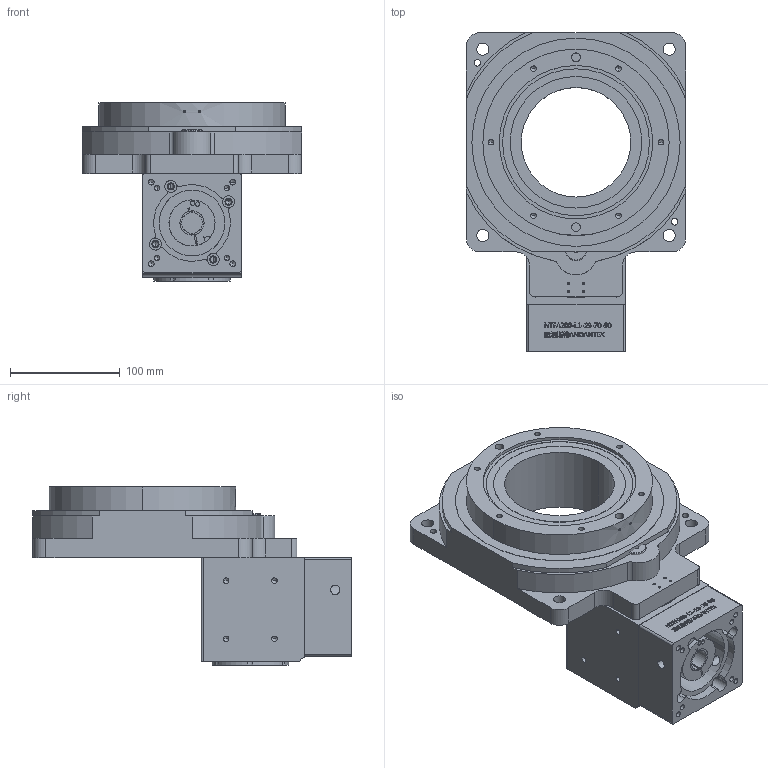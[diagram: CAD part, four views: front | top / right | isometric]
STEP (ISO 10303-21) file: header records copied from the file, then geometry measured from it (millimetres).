
FILE_DESCRIPTION (( 'STEP AP203' ), '1' );
FILE_NAME ('NTFA200-L1-19-70-90.STEP', '2024-06-18T09:45:11', ( 'Windows User' ), ( 'P R C' ), 'SwSTEP 2.0', 'SolidWorks 2016', '' );
FILE_SCHEMA (( 'CONFIG_CONTROL_DESIGN' ));
Length unit declared in the file: millimetre
Products named in the file (14): ko9o眊极; K090標杶; 25-40-7蚐猾; K090͹̨; PVFD090 单轴（配80伺服尺寸19-70-90-M6）; k090綴楊擘; NTFA200-L1-19-70-90; K090怀堤粣; K090输入轴; 32005_Rolling bearings 32005 GB 297-94; K090蹟譫; RPA200T-10耀倰; 6005_Rolling bearings 6005 GB 276-94; NTFA200-10K樓蛌砃ん珨极(19-40 70-3 4-6(1)
Assembly tree (17 placements, depth 3):
  NTFA200-L1-19-70-90
    NTFA200-10K樓蛌砃ん珨极(19-40 70-3 4-6(1)
      RPA200T-10耀倰
    PVFD090 单轴（配80伺服尺寸19-70-90-M6）
      K090標杶
      K090͹̨  x2
      k090綴楊擘
      K090怀堤粣
      K090输入轴
      32005_Rolling bearings 32005 GB 297-94
      K090蹟譫  x2
      6005_Rolling bearings 6005 GB 276-94  x2
      ko9o眊极
      25-40-7蚐猾  x2
Bounding box: 200 x 290.5 x 162.5 mm (x, y, z)
Volume: 2421512.5 mm3; surface area: 386663.7 mm2
Topology: 20 solids, 20 shells, 1753 faces, 5367 edges, 3389 vertices
Faces by surface type: plane 600, bspline 502, cylinder 463, cone 188
Entity records: 66108 total; most frequent: CARTESIAN_POINT 26484, ORIENTED_EDGE 8766, DIRECTION 6931, EDGE_CURVE 4383, VERTEX_POINT 2888, AXIS2_PLACEMENT_3D 2553, VECTOR 1825, LINE 1825
